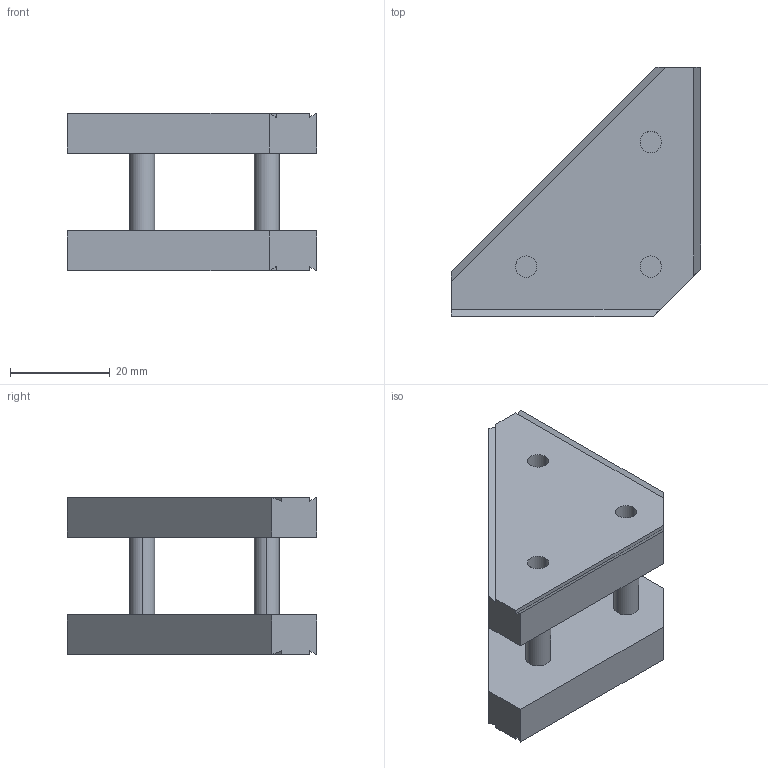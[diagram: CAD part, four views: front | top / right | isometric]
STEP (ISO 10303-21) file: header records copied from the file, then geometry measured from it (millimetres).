
FILE_DESCRIPTION (( 'STEP AP203' ), '1' );
FILE_NAME ('X-Z Verbindung dL50.STEP', '2002-07-08T12:49:10', ( '' ), ( '' ), 'SwSTEP 2.0', 'SolidWorks 2002127', '' );
FILE_SCHEMA (( 'CONFIG_CONTROL_DESIGN' ));
Length unit declared in the file: millimetre
Products named in the file (1): X-Z Verbindung dL50
Bounding box: 50 x 50 x 31.6 mm (x, y, z)
Volume: 26238.9 mm3; surface area: 10412.2 mm2
Topology: 1 solids, 1 shells, 43 faces, 108 edges, 72 vertices
Faces by surface type: plane 31, cylinder 12
Entity records: 1371 total; most frequent: CARTESIAN_POINT 224, DIRECTION 220, ORIENTED_EDGE 216, EDGE_CURVE 108, LINE 84, VECTOR 84, VERTEX_POINT 72, AXIS2_PLACEMENT_3D 68
